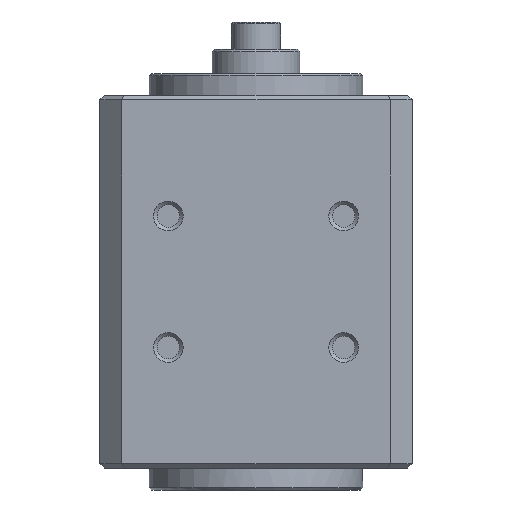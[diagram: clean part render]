
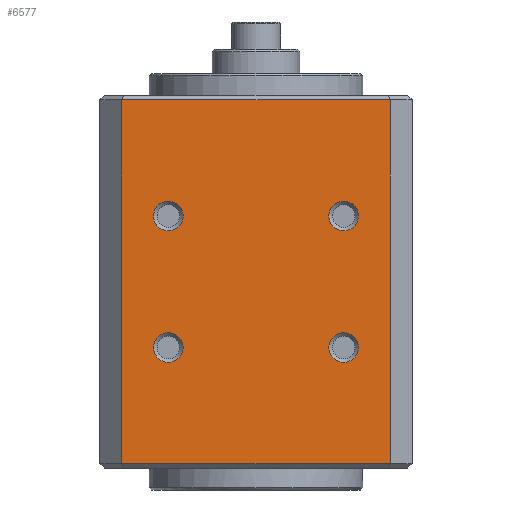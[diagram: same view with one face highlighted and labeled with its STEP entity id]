
A CAD part, left-side view. The second image highlights one B-rep face of the part: STEP entity #6577.
In plain terms, the highlighted planar face has unit normal (-1, 0, 0).
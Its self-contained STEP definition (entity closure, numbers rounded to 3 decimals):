
#4059 = PLANE('',#4060);
#4060 = AXIS2_PLACEMENT_3D('',#4061,#4062,#4063);
#4061 = CARTESIAN_POINT('',(-35.05,28.,192.8));
#4062 = DIRECTION('',(-0.707,0.,0.707
    ));
#4063 = DIRECTION('',(-0.707,0.,
    -0.707));
#4813 = PLANE('',#4814);
#4814 = AXIS2_PLACEMENT_3D('',#4815,#4816,#4817);
#4815 = CARTESIAN_POINT('',(-34.25,14.75,176.));
#4816 = DIRECTION('',(-0.707,-0.707,0.));
#4817 = DIRECTION('',(-0.707,0.707,0.));
#5125 = VERTEX_POINT('',#5126);
#5126 = CARTESIAN_POINT('',(-35.25,15.75,192.6));
#5171 = EDGE_CURVE('',#5125,#5172,#5174,.T.);
#5172 = VERTEX_POINT('',#5173);
#5173 = CARTESIAN_POINT('',(-35.25,15.75,159.4));
#5174 = SURFACE_CURVE('',#5175,(#5179,#5186),.PCURVE_S1.);
#5175 = LINE('',#5176,#5177);
#5176 = CARTESIAN_POINT('',(-35.25,15.75,176.));
#5177 = VECTOR('',#5178,1.);
#5178 = DIRECTION('',(0.,0.,-1.));
#5179 = PCURVE('',#4813,#5180);
#5180 = DEFINITIONAL_REPRESENTATION('',(#5181),#5185);
#5181 = LINE('',#5182,#5183);
#5182 = CARTESIAN_POINT('',(1.414,0.));
#5183 = VECTOR('',#5184,1.);
#5184 = DIRECTION('',(0.,1.));
#5185 = ( GEOMETRIC_REPRESENTATION_CONTEXT(2) 
PARAMETRIC_REPRESENTATION_CONTEXT() REPRESENTATION_CONTEXT('2D SPACE',''
  ) );
#5186 = PCURVE('',#5187,#5192);
#5187 = PLANE('',#5188);
#5188 = AXIS2_PLACEMENT_3D('',#5189,#5190,#5191);
#5189 = CARTESIAN_POINT('',(-35.25,42.25,159.));
#5190 = DIRECTION('',(-1.,0.,0.));
#5191 = DIRECTION('',(0.,-1.,0.));
#5192 = DEFINITIONAL_REPRESENTATION('',(#5193),#5197);
#5193 = LINE('',#5194,#5195);
#5194 = CARTESIAN_POINT('',(26.5,17.));
#5195 = VECTOR('',#5196,1.);
#5196 = DIRECTION('',(0.,-1.));
#5197 = ( GEOMETRIC_REPRESENTATION_CONTEXT(2) 
PARAMETRIC_REPRESENTATION_CONTEXT() REPRESENTATION_CONTEXT('2D SPACE',''
  ) );
#5270 = PLANE('',#5271);
#5271 = AXIS2_PLACEMENT_3D('',#5272,#5273,#5274);
#5272 = CARTESIAN_POINT('',(-35.05,28.,159.2));
#5273 = DIRECTION('',(-0.707,0.,
    -0.707));
#5274 = DIRECTION('',(-0.707,0.,0.707
    ));
#6200 = PLANE('',#6201);
#6201 = AXIS2_PLACEMENT_3D('',#6202,#6203,#6204);
#6202 = CARTESIAN_POINT('',(-34.25,41.25,176.));
#6203 = DIRECTION('',(-0.707,0.707,0.));
#6204 = DIRECTION('',(0.707,0.707,0.));
#6484 = VERTEX_POINT('',#6485);
#6485 = CARTESIAN_POINT('',(-35.25,40.25,192.6));
#6534 = VERTEX_POINT('',#6535);
#6535 = CARTESIAN_POINT('',(-35.25,40.25,159.4));
#6556 = EDGE_CURVE('',#6534,#6484,#6557,.T.);
#6557 = SURFACE_CURVE('',#6558,(#6562,#6569),.PCURVE_S1.);
#6558 = LINE('',#6559,#6560);
#6559 = CARTESIAN_POINT('',(-35.25,40.25,159.));
#6560 = VECTOR('',#6561,1.);
#6561 = DIRECTION('',(0.,0.,1.));
#6562 = PCURVE('',#6200,#6563);
#6563 = DEFINITIONAL_REPRESENTATION('',(#6564),#6568);
#6564 = LINE('',#6565,#6566);
#6565 = CARTESIAN_POINT('',(-1.414,17.));
#6566 = VECTOR('',#6567,1.);
#6567 = DIRECTION('',(0.,-1.));
#6568 = ( GEOMETRIC_REPRESENTATION_CONTEXT(2) 
PARAMETRIC_REPRESENTATION_CONTEXT() REPRESENTATION_CONTEXT('2D SPACE',''
  ) );
#6569 = PCURVE('',#5187,#6570);
#6570 = DEFINITIONAL_REPRESENTATION('',(#6571),#6575);
#6571 = LINE('',#6572,#6573);
#6572 = CARTESIAN_POINT('',(2.,0.));
#6573 = VECTOR('',#6574,1.);
#6574 = DIRECTION('',(0.,1.));
#6575 = ( GEOMETRIC_REPRESENTATION_CONTEXT(2) 
PARAMETRIC_REPRESENTATION_CONTEXT() REPRESENTATION_CONTEXT('2D SPACE',''
  ) );
#6577 = ADVANCED_FACE('',(#6578,#6624,#6655,#6686,#6717),#5187,.T.);
#6578 = FACE_BOUND('',#6579,.T.);
#6579 = EDGE_LOOP('',(#6580,#6581,#6602,#6603));
#6580 = ORIENTED_EDGE('',*,*,#6556,.F.);
#6581 = ORIENTED_EDGE('',*,*,#6582,.F.);
#6582 = EDGE_CURVE('',#5172,#6534,#6583,.T.);
#6583 = SURFACE_CURVE('',#6584,(#6588,#6595),.PCURVE_S1.);
#6584 = LINE('',#6585,#6586);
#6585 = CARTESIAN_POINT('',(-35.25,28.,159.4));
#6586 = VECTOR('',#6587,1.);
#6587 = DIRECTION('',(0.,1.,0.));
#6588 = PCURVE('',#5187,#6589);
#6589 = DEFINITIONAL_REPRESENTATION('',(#6590),#6594);
#6590 = LINE('',#6591,#6592);
#6591 = CARTESIAN_POINT('',(14.25,0.4));
#6592 = VECTOR('',#6593,1.);
#6593 = DIRECTION('',(-1.,0.));
#6594 = ( GEOMETRIC_REPRESENTATION_CONTEXT(2) 
PARAMETRIC_REPRESENTATION_CONTEXT() REPRESENTATION_CONTEXT('2D SPACE',''
  ) );
#6595 = PCURVE('',#5270,#6596);
#6596 = DEFINITIONAL_REPRESENTATION('',(#6597),#6601);
#6597 = LINE('',#6598,#6599);
#6598 = CARTESIAN_POINT('',(0.283,0.));
#6599 = VECTOR('',#6600,1.);
#6600 = DIRECTION('',(0.,1.));
#6601 = ( GEOMETRIC_REPRESENTATION_CONTEXT(2) 
PARAMETRIC_REPRESENTATION_CONTEXT() REPRESENTATION_CONTEXT('2D SPACE',''
  ) );
#6602 = ORIENTED_EDGE('',*,*,#5171,.F.);
#6603 = ORIENTED_EDGE('',*,*,#6604,.F.);
#6604 = EDGE_CURVE('',#6484,#5125,#6605,.T.);
#6605 = SURFACE_CURVE('',#6606,(#6610,#6617),.PCURVE_S1.);
#6606 = LINE('',#6607,#6608);
#6607 = CARTESIAN_POINT('',(-35.25,28.,192.6));
#6608 = VECTOR('',#6609,1.);
#6609 = DIRECTION('',(0.,-1.,0.));
#6610 = PCURVE('',#5187,#6611);
#6611 = DEFINITIONAL_REPRESENTATION('',(#6612),#6616);
#6612 = LINE('',#6613,#6614);
#6613 = CARTESIAN_POINT('',(14.25,33.6));
#6614 = VECTOR('',#6615,1.);
#6615 = DIRECTION('',(1.,0.));
#6616 = ( GEOMETRIC_REPRESENTATION_CONTEXT(2) 
PARAMETRIC_REPRESENTATION_CONTEXT() REPRESENTATION_CONTEXT('2D SPACE',''
  ) );
#6617 = PCURVE('',#4059,#6618);
#6618 = DEFINITIONAL_REPRESENTATION('',(#6619),#6623);
#6619 = LINE('',#6620,#6621);
#6620 = CARTESIAN_POINT('',(0.283,0.));
#6621 = VECTOR('',#6622,1.);
#6622 = DIRECTION('',(0.,1.));
#6623 = ( GEOMETRIC_REPRESENTATION_CONTEXT(2) 
PARAMETRIC_REPRESENTATION_CONTEXT() REPRESENTATION_CONTEXT('2D SPACE',''
  ) );
#6624 = FACE_BOUND('',#6625,.T.);
#6625 = EDGE_LOOP('',(#6626));
#6626 = ORIENTED_EDGE('',*,*,#6627,.F.);
#6627 = EDGE_CURVE('',#6628,#6628,#6630,.T.);
#6628 = VERTEX_POINT('',#6629);
#6629 = CARTESIAN_POINT('',(-35.25,34.65,182.));
#6630 = SURFACE_CURVE('',#6631,(#6636,#6643),.PCURVE_S1.);
#6631 = CIRCLE('',#6632,1.35);
#6632 = AXIS2_PLACEMENT_3D('',#6633,#6634,#6635);
#6633 = CARTESIAN_POINT('',(-35.25,36.,182.));
#6634 = DIRECTION('',(-1.,0.,0.));
#6635 = DIRECTION('',(0.,-1.,0.));
#6636 = PCURVE('',#5187,#6637);
#6637 = DEFINITIONAL_REPRESENTATION('',(#6638),#6642);
#6638 = CIRCLE('',#6639,1.35);
#6639 = AXIS2_PLACEMENT_2D('',#6640,#6641);
#6640 = CARTESIAN_POINT('',(6.25,23.));
#6641 = DIRECTION('',(1.,0.));
#6642 = ( GEOMETRIC_REPRESENTATION_CONTEXT(2) 
PARAMETRIC_REPRESENTATION_CONTEXT() REPRESENTATION_CONTEXT('2D SPACE',''
  ) );
#6643 = PCURVE('',#6644,#6649);
#6644 = CONICAL_SURFACE('',#6645,1.188,0.785);
#6645 = AXIS2_PLACEMENT_3D('',#6646,#6647,#6648);
#6646 = CARTESIAN_POINT('',(-35.088,36.,182.));
#6647 = DIRECTION('',(-1.,0.,0.));
#6648 = DIRECTION('',(0.,1.,0.));
#6649 = DEFINITIONAL_REPRESENTATION('',(#6650),#6654);
#6650 = LINE('',#6651,#6652);
#6651 = CARTESIAN_POINT('',(3.142,0.163));
#6652 = VECTOR('',#6653,1.);
#6653 = DIRECTION('',(1.,0.));
#6654 = ( GEOMETRIC_REPRESENTATION_CONTEXT(2) 
PARAMETRIC_REPRESENTATION_CONTEXT() REPRESENTATION_CONTEXT('2D SPACE',''
  ) );
#6655 = FACE_BOUND('',#6656,.T.);
#6656 = EDGE_LOOP('',(#6657));
#6657 = ORIENTED_EDGE('',*,*,#6658,.F.);
#6658 = EDGE_CURVE('',#6659,#6659,#6661,.T.);
#6659 = VERTEX_POINT('',#6660);
#6660 = CARTESIAN_POINT('',(-35.25,18.65,170.));
#6661 = SURFACE_CURVE('',#6662,(#6667,#6674),.PCURVE_S1.);
#6662 = CIRCLE('',#6663,1.35);
#6663 = AXIS2_PLACEMENT_3D('',#6664,#6665,#6666);
#6664 = CARTESIAN_POINT('',(-35.25,20.,170.));
#6665 = DIRECTION('',(-1.,0.,0.));
#6666 = DIRECTION('',(0.,-1.,0.));
#6667 = PCURVE('',#5187,#6668);
#6668 = DEFINITIONAL_REPRESENTATION('',(#6669),#6673);
#6669 = CIRCLE('',#6670,1.35);
#6670 = AXIS2_PLACEMENT_2D('',#6671,#6672);
#6671 = CARTESIAN_POINT('',(22.25,11.));
#6672 = DIRECTION('',(1.,0.));
#6673 = ( GEOMETRIC_REPRESENTATION_CONTEXT(2) 
PARAMETRIC_REPRESENTATION_CONTEXT() REPRESENTATION_CONTEXT('2D SPACE',''
  ) );
#6674 = PCURVE('',#6675,#6680);
#6675 = CONICAL_SURFACE('',#6676,1.188,0.785);
#6676 = AXIS2_PLACEMENT_3D('',#6677,#6678,#6679);
#6677 = CARTESIAN_POINT('',(-35.088,20.,170.));
#6678 = DIRECTION('',(-1.,0.,0.));
#6679 = DIRECTION('',(0.,1.,0.));
#6680 = DEFINITIONAL_REPRESENTATION('',(#6681),#6685);
#6681 = LINE('',#6682,#6683);
#6682 = CARTESIAN_POINT('',(3.142,0.163));
#6683 = VECTOR('',#6684,1.);
#6684 = DIRECTION('',(1.,0.));
#6685 = ( GEOMETRIC_REPRESENTATION_CONTEXT(2) 
PARAMETRIC_REPRESENTATION_CONTEXT() REPRESENTATION_CONTEXT('2D SPACE',''
  ) );
#6686 = FACE_BOUND('',#6687,.T.);
#6687 = EDGE_LOOP('',(#6688));
#6688 = ORIENTED_EDGE('',*,*,#6689,.F.);
#6689 = EDGE_CURVE('',#6690,#6690,#6692,.T.);
#6690 = VERTEX_POINT('',#6691);
#6691 = CARTESIAN_POINT('',(-35.25,34.65,170.));
#6692 = SURFACE_CURVE('',#6693,(#6698,#6705),.PCURVE_S1.);
#6693 = CIRCLE('',#6694,1.35);
#6694 = AXIS2_PLACEMENT_3D('',#6695,#6696,#6697);
#6695 = CARTESIAN_POINT('',(-35.25,36.,170.));
#6696 = DIRECTION('',(-1.,0.,0.));
#6697 = DIRECTION('',(0.,-1.,0.));
#6698 = PCURVE('',#5187,#6699);
#6699 = DEFINITIONAL_REPRESENTATION('',(#6700),#6704);
#6700 = CIRCLE('',#6701,1.35);
#6701 = AXIS2_PLACEMENT_2D('',#6702,#6703);
#6702 = CARTESIAN_POINT('',(6.25,11.));
#6703 = DIRECTION('',(1.,0.));
#6704 = ( GEOMETRIC_REPRESENTATION_CONTEXT(2) 
PARAMETRIC_REPRESENTATION_CONTEXT() REPRESENTATION_CONTEXT('2D SPACE',''
  ) );
#6705 = PCURVE('',#6706,#6711);
#6706 = CONICAL_SURFACE('',#6707,1.188,0.785);
#6707 = AXIS2_PLACEMENT_3D('',#6708,#6709,#6710);
#6708 = CARTESIAN_POINT('',(-35.088,36.,170.));
#6709 = DIRECTION('',(-1.,0.,0.));
#6710 = DIRECTION('',(0.,1.,0.));
#6711 = DEFINITIONAL_REPRESENTATION('',(#6712),#6716);
#6712 = LINE('',#6713,#6714);
#6713 = CARTESIAN_POINT('',(3.142,0.163));
#6714 = VECTOR('',#6715,1.);
#6715 = DIRECTION('',(1.,0.));
#6716 = ( GEOMETRIC_REPRESENTATION_CONTEXT(2) 
PARAMETRIC_REPRESENTATION_CONTEXT() REPRESENTATION_CONTEXT('2D SPACE',''
  ) );
#6717 = FACE_BOUND('',#6718,.T.);
#6718 = EDGE_LOOP('',(#6719));
#6719 = ORIENTED_EDGE('',*,*,#6720,.F.);
#6720 = EDGE_CURVE('',#6721,#6721,#6723,.T.);
#6721 = VERTEX_POINT('',#6722);
#6722 = CARTESIAN_POINT('',(-35.25,18.65,182.));
#6723 = SURFACE_CURVE('',#6724,(#6729,#6736),.PCURVE_S1.);
#6724 = CIRCLE('',#6725,1.35);
#6725 = AXIS2_PLACEMENT_3D('',#6726,#6727,#6728);
#6726 = CARTESIAN_POINT('',(-35.25,20.,182.));
#6727 = DIRECTION('',(-1.,0.,0.));
#6728 = DIRECTION('',(0.,-1.,0.));
#6729 = PCURVE('',#5187,#6730);
#6730 = DEFINITIONAL_REPRESENTATION('',(#6731),#6735);
#6731 = CIRCLE('',#6732,1.35);
#6732 = AXIS2_PLACEMENT_2D('',#6733,#6734);
#6733 = CARTESIAN_POINT('',(22.25,23.));
#6734 = DIRECTION('',(1.,0.));
#6735 = ( GEOMETRIC_REPRESENTATION_CONTEXT(2) 
PARAMETRIC_REPRESENTATION_CONTEXT() REPRESENTATION_CONTEXT('2D SPACE',''
  ) );
#6736 = PCURVE('',#6737,#6742);
#6737 = CONICAL_SURFACE('',#6738,1.188,0.785);
#6738 = AXIS2_PLACEMENT_3D('',#6739,#6740,#6741);
#6739 = CARTESIAN_POINT('',(-35.088,20.,182.));
#6740 = DIRECTION('',(-1.,0.,0.));
#6741 = DIRECTION('',(0.,1.,0.));
#6742 = DEFINITIONAL_REPRESENTATION('',(#6743),#6747);
#6743 = LINE('',#6744,#6745);
#6744 = CARTESIAN_POINT('',(3.142,0.163));
#6745 = VECTOR('',#6746,1.);
#6746 = DIRECTION('',(1.,0.));
#6747 = ( GEOMETRIC_REPRESENTATION_CONTEXT(2) 
PARAMETRIC_REPRESENTATION_CONTEXT() REPRESENTATION_CONTEXT('2D SPACE',''
  ) );
